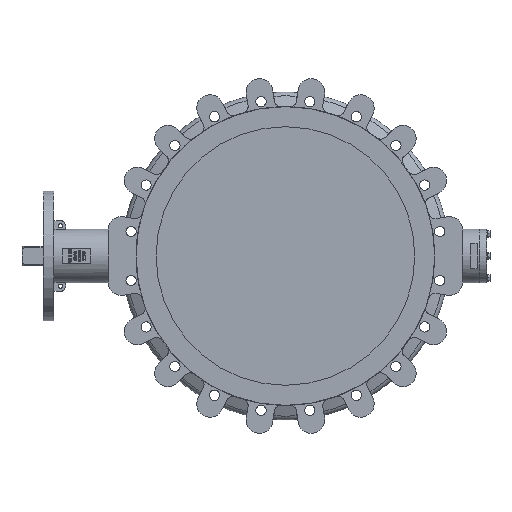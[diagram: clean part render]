
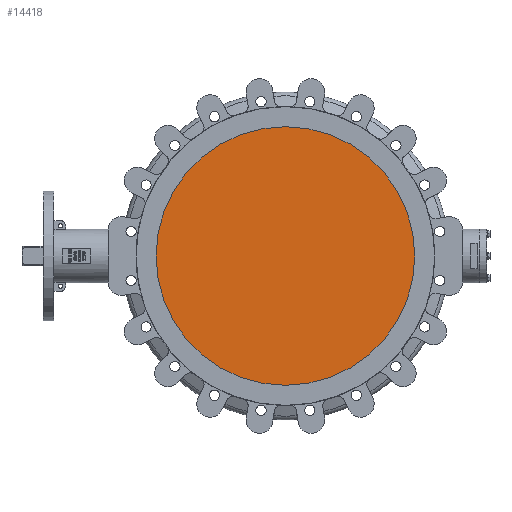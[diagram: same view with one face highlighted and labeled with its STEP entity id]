
A CAD part, left-side view. The second image highlights one B-rep face of the part: STEP entity #14418.
In plain terms, the highlighted planar face has unit normal (-1, 0, 0).
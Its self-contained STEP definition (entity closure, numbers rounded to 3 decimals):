
#607=PLANE('',#15495);
#1874=FACE_OUTER_BOUND('',#2710,.T.);
#2710=EDGE_LOOP('',(#12625));
#5400=CIRCLE('',#15494,300.);
#6717=VERTEX_POINT('',#26885);
#8709=EDGE_CURVE('',#6717,#6717,#5400,.T.);
#12625=ORIENTED_EDGE('',*,*,#8709,.F.);
#14418=ADVANCED_FACE('',(#1874),#607,.F.);
#15494=AXIS2_PLACEMENT_3D('',#26887,#18633,#18634);
#15495=AXIS2_PLACEMENT_3D('',#26888,#18635,#18636);
#18633=DIRECTION('center_axis',(1.,0.,0.));
#18634=DIRECTION('ref_axis',(0.,0.,-1.));
#18635=DIRECTION('center_axis',(1.,0.,0.));
#18636=DIRECTION('ref_axis',(0.,0.,-1.));
#26885=CARTESIAN_POINT('',(-74.102,-39.076,300.));
#26887=CARTESIAN_POINT('Origin',(-74.102,-39.076,0.));
#26888=CARTESIAN_POINT('Origin',(-74.102,-39.076,0.));
